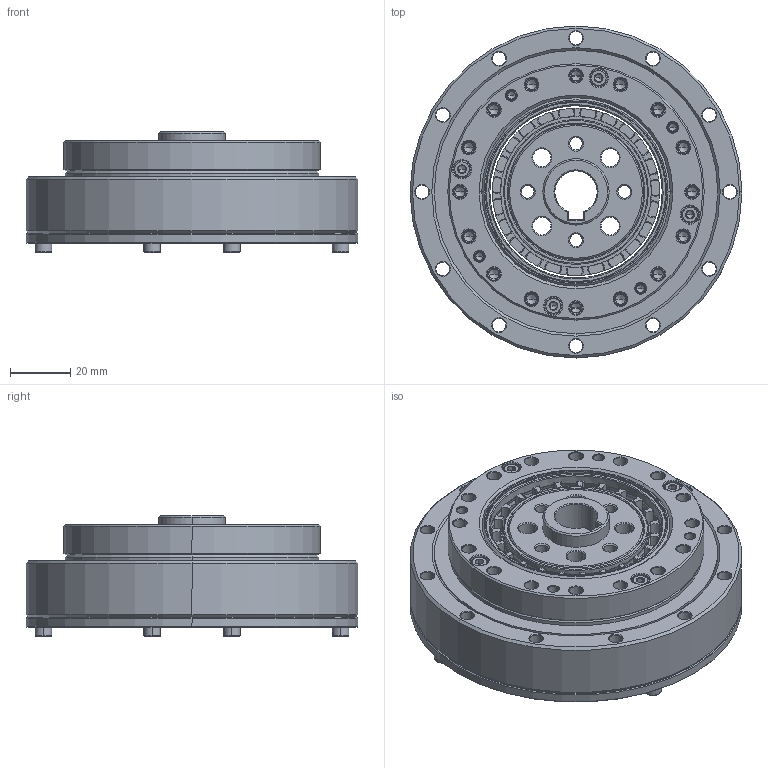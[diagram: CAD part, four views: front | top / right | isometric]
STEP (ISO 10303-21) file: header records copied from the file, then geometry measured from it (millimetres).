
FILE_DESCRIPTION (( 'STEP AP203' ), '1' );
FILE_NAME ('ST-25-XX-U-I-LF-¦Õ14.STEP', '2024-12-12T03:16:34', ( 'Windows User' ), ( 'P R C' ), 'SwSTEP 2.0', 'SolidWorks 2016', '' );
FILE_SCHEMA (( 'CONFIG_CONTROL_DESIGN' ));
Length unit declared in the file: millimetre
Products named in the file (1): ST-25-XX-U-I-LF-耳14
Bounding box: 110 x 110 x 40 mm (x, y, z)
Volume: 155580.4 mm3; surface area: 103950.7 mm2
Topology: 17 solids, 17 shells, 1824 faces, 4471 edges, 2724 vertices
Faces by surface type: plane 652, cone 542, cylinder 372, bspline 258
Entity records: 62554 total; most frequent: CARTESIAN_POINT 20524, ORIENTED_EDGE 8774, DIRECTION 8533, EDGE_CURVE 4387, AXIS2_PLACEMENT_3D 3095, VERTEX_POINT 2724, VECTOR 2343, LINE 2343
